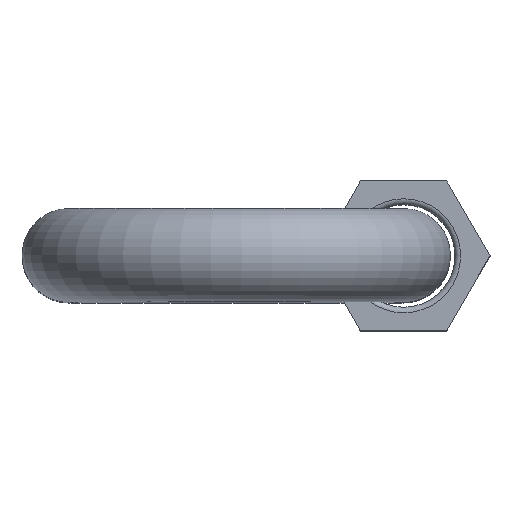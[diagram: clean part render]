
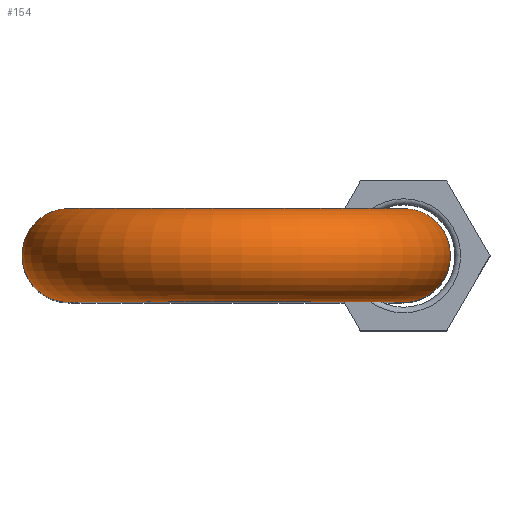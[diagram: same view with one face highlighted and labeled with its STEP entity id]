
A CAD part, top view. The second image highlights one B-rep face of the part: STEP entity #154.
In plain terms, the highlighted toroidal (fillet/blend) face has major radius 8.955 mm and minor radius 2.5 mm.
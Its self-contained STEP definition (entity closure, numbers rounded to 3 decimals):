
#154=ADVANCED_FACE('',(#286,#287),#288,.T.);
#286=FACE_OUTER_BOUND('',#397,.T.);
#287=FACE_OUTER_BOUND('',#398,.T.);
#288=TOROIDAL_SURFACE('',#399,8.955,2.5);
#397=EDGE_LOOP('',(#603));
#398=EDGE_LOOP('',(#604));
#399=AXIS2_PLACEMENT_3D('',#605,#606,#607);
#603=ORIENTED_EDGE('',*,*,#677,.F.);
#604=ORIENTED_EDGE('',*,*,#674,.T.);
#605=CARTESIAN_POINT('',(11.455,2.5,40.455));
#606=DIRECTION('',(0.0,1.0,0.));
#607=DIRECTION('',(0.0,0.,1.0));
#674=EDGE_CURVE('',#783,#783,#784,.T.);
#677=EDGE_CURVE('',#787,#787,#788,.T.);
#783=VERTEX_POINT('',#929);
#784=CIRCLE('',#930,2.5);
#787=VERTEX_POINT('',#933);
#788=CIRCLE('',#934,2.5);
#929=CARTESIAN_POINT('',(5.0,2.5,40.455));
#930=AXIS2_PLACEMENT_3D('',#1011,#1012,#1013);
#933=CARTESIAN_POINT('',(20.41,5.0,40.455));
#934=AXIS2_PLACEMENT_3D('',#1014,#1015,#1016);
#1011=CARTESIAN_POINT('',(2.5,2.5,40.455));
#1012=DIRECTION('',(0.0,0.0,1.0));
#1013=DIRECTION('',(1.0,0.0,0.0));
#1014=CARTESIAN_POINT('',(20.41,2.5,40.455));
#1015=DIRECTION('',(0.0,0.,-1.0));
#1016=DIRECTION('',(0.0,1.0,0.));
